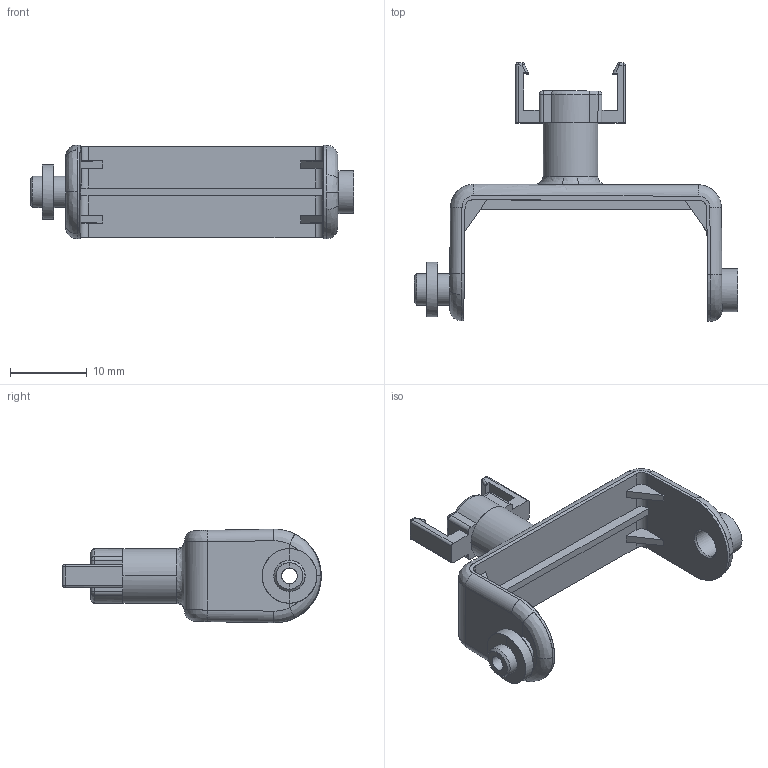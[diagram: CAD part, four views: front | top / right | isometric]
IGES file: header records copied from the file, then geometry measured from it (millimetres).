
Global section: file name: Filename.iges; native system: Open CASCADE 7.5; preprocessor: Open CASCADE IGES processor 7.5; date: 20210414.170848; units: millimetre
Bounding box: 42.13 x 33.67 x 12.2 mm (x, y, z)
Surface area: 2610.8 mm2 (no closed solid volume)
Topology: 0 solids, 0 shells, 159 faces, 818 edges, 810 vertices
Faces by surface type: revolution 75, plane 64, bspline 20
